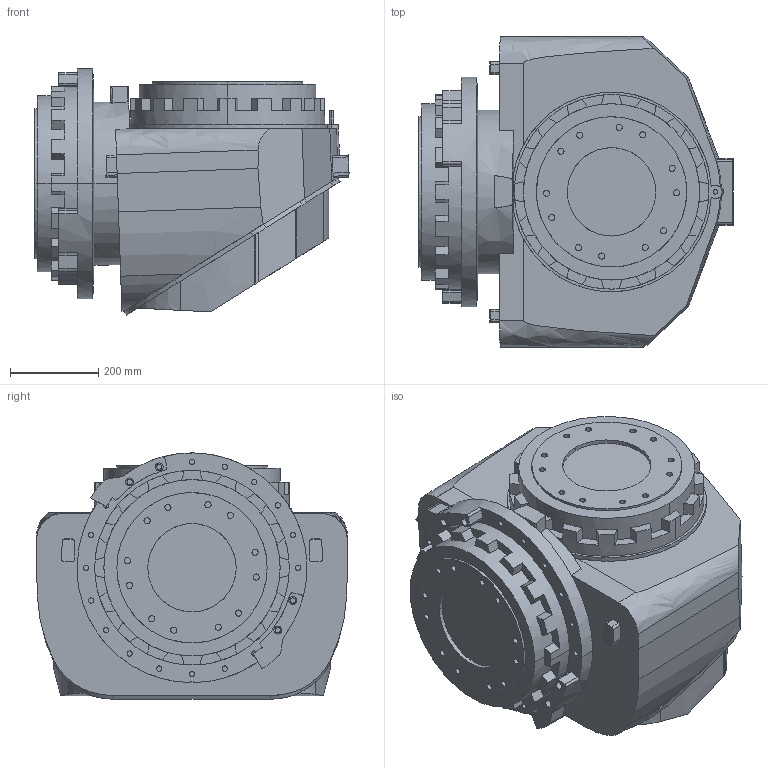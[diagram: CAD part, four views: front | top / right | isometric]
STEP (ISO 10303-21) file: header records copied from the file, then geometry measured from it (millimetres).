
FILE_DESCRIPTION (( 'STEP AP214' ), '1' );
FILE_NAME ('IRB5500_12_T00F71B41V31H51_rev1_2.step', '2006-09-01T12:02:55', ( 'Jonas Eriksson' ), ( '' ), 'SwSTEP 2.0', 'SolidWorks 2004334', '' );
FILE_SCHEMA (( 'AUTOMOTIVE_DESIGN' ));
Length unit declared in the file: millimetre
Products named in the file (1): IRB5500_12_T00F71B41V31H51_rev1_2
Bounding box: 711 x 705.66 x 557.36 mm (x, y, z)
Volume: 149776999.8 mm3; surface area: 2162281.5 mm2
Topology: 1 solids, 1 shells, 471 faces, 1454 edges, 1040 vertices
Faces by surface type: plane 272, cylinder 148, bspline 49, cone 2
Entity records: 40133 total; most frequent: CARTESIAN_POINT 23543, ORIENTED_EDGE 2908, DIRECTION 1510, EDGE_CURVE 1454, VERTEX_POINT 1040, B_SPLINE_CURVE_WITH_KNOTS 788, LINE 630, VECTOR 630
